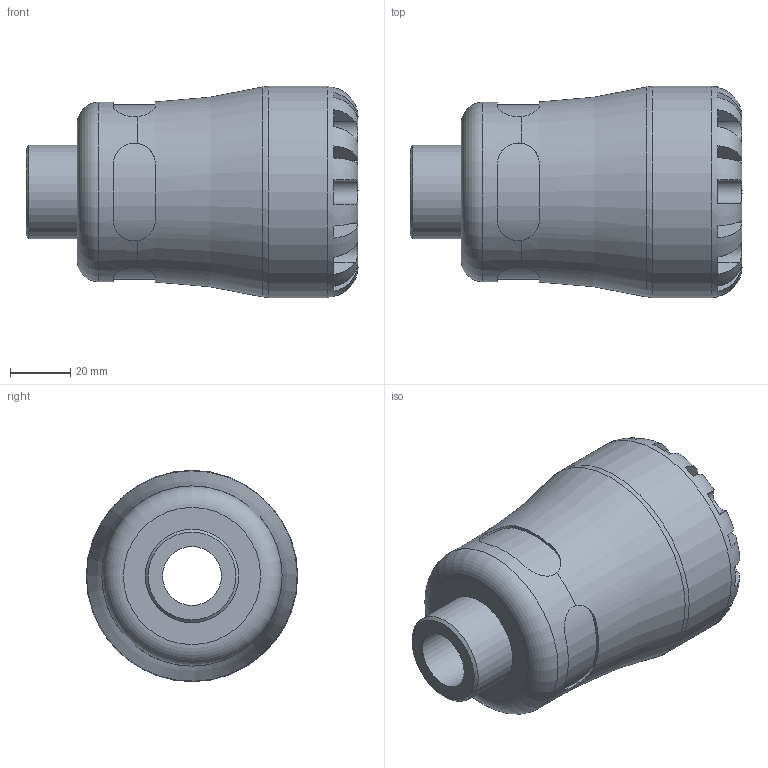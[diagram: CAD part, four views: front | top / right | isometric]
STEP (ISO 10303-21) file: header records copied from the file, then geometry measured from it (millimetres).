
FILE_DESCRIPTION(/* description */ ('PLASSON MALE INTEGRAL BRASS THREAD 40X1" SERIES 1'),/* implementation_level */ '2;1');
FILE_NAME(/* name */ 'C:\Dropbox\KIMPROJECTS-Inventor\99-16-3568-Processing\1072\107200040010_197200040010.ipt.stp',/* time_stamp */ '2017-01-22T10:48:59+02:00',/* author */ ('KIM'),/* organization */ (''),/* preprocessor_version */ 'ST-DEVELOPER v15.6',/* originating_system */ 'Autodesk Inventor 2015',/* authorisation */ '');
FILE_SCHEMA (('AUTOMOTIVE_DESIGN { 1 0 10303 214 3 1 1 }'));
Length unit declared in the file: millimetre
Products named in the file (1): 107200040010_197200040010
Bounding box: 110 x 70 x 70 mm (x, y, z)
Volume: 203491.3 mm3; surface area: 38562 mm2
Topology: 1 solids, 1 shells, 99 faces, 255 edges, 160 vertices
Faces by surface type: plane 60, cylinder 33, torus 4, cone 2
Full cylindrical faces by diameter (mm): 19.502 x1, 30.931 x1, 40 x1, 59.5 x1, 70 x1
Entity records: 3859 total; most frequent: CARTESIAN_POINT 1458, ORIENTED_EDGE 482, DIRECTION 458, EDGE_CURVE 241, AXIS2_PLACEMENT_3D 189, VERTEX_POINT 157, EDGE_LOOP 114, STYLED_ITEM 100
